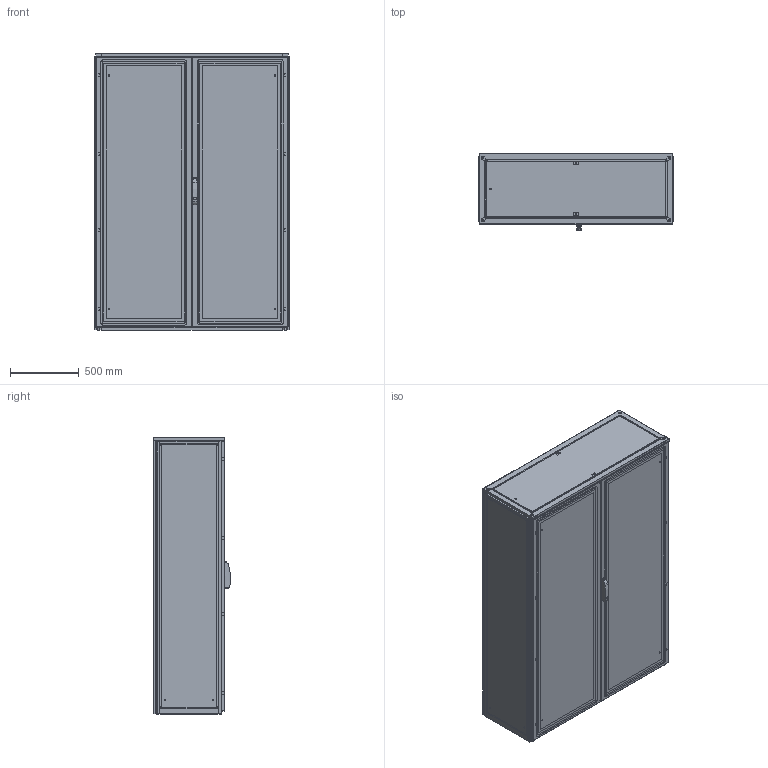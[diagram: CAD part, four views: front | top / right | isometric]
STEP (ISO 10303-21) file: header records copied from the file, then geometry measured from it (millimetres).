
FILE_DESCRIPTION(/* description */ ('STEP AP214'),/* implementation_level */ '2;1');
FILE_NAME(/* name */ 'ENUX142005PR -LOD350',/* time_stamp */ '2025-10-06T10:05:40+02:00',/* author */ ('License CC BY-ND 4.0'),/* organization */ ('CADENAS'),/* preprocessor_version */ 'ST-DEVELOPER v19.3',/* originating_system */ 'PARTsolutions',/* authorisation */ ' ');
FILE_SCHEMA (('AUTOMOTIVE_DESIGN {1 0 10303 214 3 1 1}'));
Length unit declared in the file: millimetre
Products named in the file (11): ENUX142005PR  -LOD350; ENUX142005PR  -LOD3501; ENUX142005PR  -LOD3507; ENUX142005PR  -LOD3502; ENUX142005PR  -LOD35011; ENUX142005PR  -LOD3503; ENUX142005PR  -LOD3508; ENUX142005PR  -LOD3505; ENUX142005PR  -LOD3504; ENUX142005PR  -LOD35010; ENUX142005PR  -LOD3509
Assembly tree (17 placements, depth 2):
  ENUX142005PR  -LOD350
    ENUX142005PR  -LOD3501
    ENUX142005PR  -LOD3507  x2
    ENUX142005PR  -LOD3502
    ENUX142005PR  -LOD35011
    ENUX142005PR  -LOD3503
    ENUX142005PR  -LOD3508
    ENUX142005PR  -LOD3505
    ENUX142005PR  -LOD3504
    ENUX142005PR  -LOD35010  x4
    ENUX142005PR  -LOD3509  x4
Bounding box: 1412 x 557 x 2008.5 mm (x, y, z)
Volume: 31428768.1 mm3; surface area: 26167906.4 mm2
Topology: 17 solids, 24 shells, 1518 faces, 4087 edges, 2672 vertices
Faces by surface type: plane 912, cylinder 556, torus 30, cone 12, sphere 8
Full cylindrical faces by diameter (mm): 6 x15, 9 x13, 12 x4, 14 x2, 17 x2, 28 x2
Entity records: 36582 total; most frequent: CARTESIAN_POINT 6695, DIRECTION 6211, ORIENTED_EDGE 6118, EDGE_CURVE 3059, AXIS2_PLACEMENT_3D 2071, LINE 2069, VECTOR 2069, VERTEX_POINT 2022
